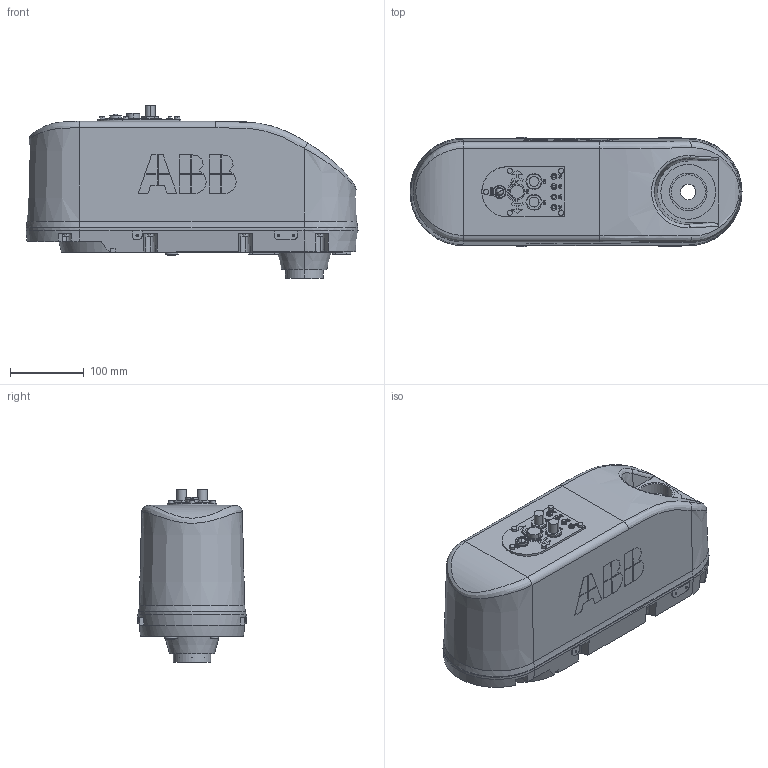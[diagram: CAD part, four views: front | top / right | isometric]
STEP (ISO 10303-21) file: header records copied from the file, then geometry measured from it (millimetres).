
FILE_DESCRIPTION (( 'STEP AP214' ), '1' );
FILE_NAME ('IRB920_6kg-550-180-STD_OmniCore_rev00_LINK2.STEP', '2022-06-20T05:08:54', ( '' ), ( '' ), 'SwSTEP 2.0', 'SolidWorks 2020', '' );
FILE_SCHEMA (( 'AUTOMOTIVE_DESIGN' ));
Length unit declared in the file: millimetre
Products named in the file (1): IRB920_6kg-550-180-STD_OmniCore_rev00_LINK2
Bounding box: 451 x 149 x 235.7 mm (x, y, z)
Volume: 9640185.4 mm3; surface area: 320466.1 mm2
Topology: 1 solids, 1 shells, 889 faces, 2266 edges, 1454 vertices
Faces by surface type: plane 510, bspline 155, cylinder 123, cone 93, torus 6, sphere 2
Entity records: 39323 total; most frequent: CARTESIAN_POINT 16963, ORIENTED_EDGE 4442, DIRECTION 3651, EDGE_CURVE 2221, LINE 1457, VECTOR 1457, VERTEX_POINT 1454, AXIS2_PLACEMENT_3D 1097
